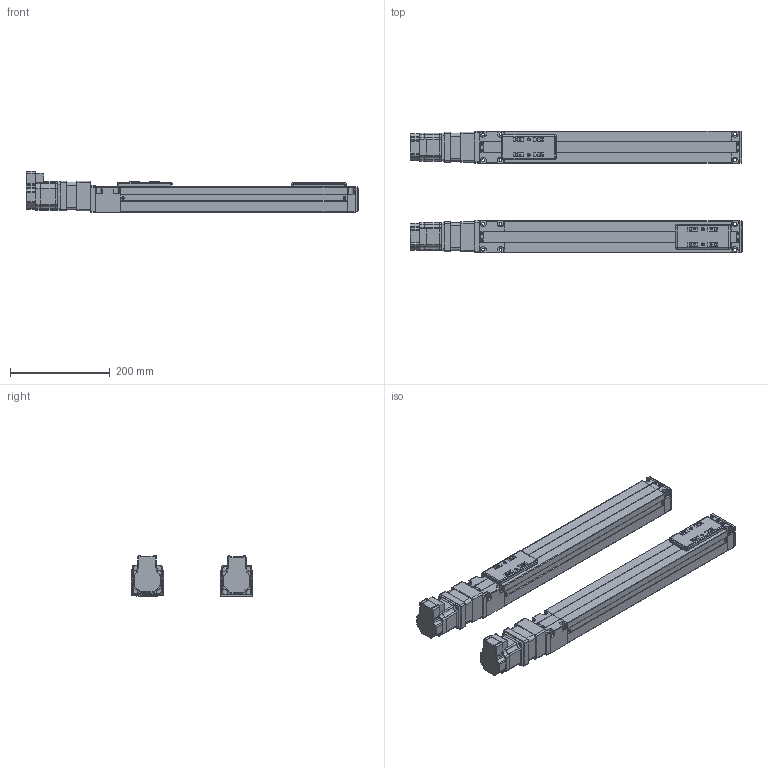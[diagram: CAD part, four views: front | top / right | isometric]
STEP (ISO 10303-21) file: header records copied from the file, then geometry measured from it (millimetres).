
FILE_DESCRIPTION(('STEP AP214'),'1');
FILE_NAME('F:\外形図\3D_DAD2\SCLT6\SCLT6_B\tmp0.step',' ',(' '),(' '),'XStep 1.0',' ',' ');
FILE_SCHEMA(('automotive_design'));
Length unit declared in the file: millimetre
Bounding box: 667 x 244 x 83 mm (x, y, z)
Volume: 4311976.1 mm3; surface area: 745640 mm2
Topology: 54 solids, 54 shells, 2200 faces, 5994 edges, 3932 vertices
Faces by surface type: plane 1718, cylinder 384, bspline 74, sphere 16, cone 8
Entity records: 89297 total; most frequent: CARTESIAN_POINT 14266, ORIENTED_EDGE 11956, DIRECTION 11242, EDGE_CURVE 5978, LINE 5074, VECTOR 5074, VERTEX_POINT 3932, AXIS2_PLACEMENT_3D 3084
